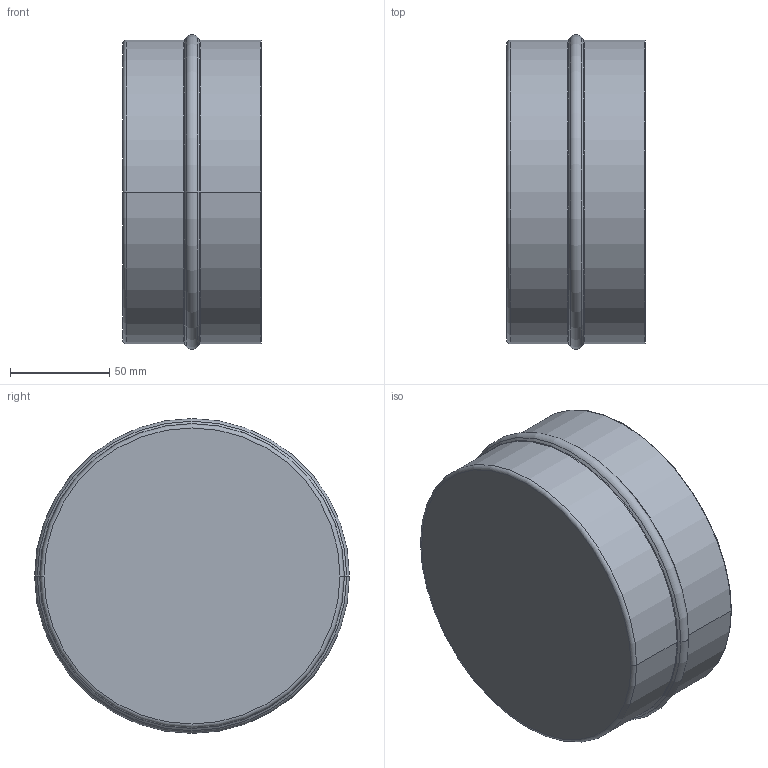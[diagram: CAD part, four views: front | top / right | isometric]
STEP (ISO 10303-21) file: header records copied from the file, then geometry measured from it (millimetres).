
FILE_DESCRIPTION((''),'2;1');
FILE_NAME('2012900600','2017-05-10T',('Administrator'),(''),'PRO/ENGINEER BY PARAMETRIC TECHNOLOGY CORPORATION, 2009360','PRO/ENGINEER BY PARAMETRIC TECHNOLOGY CORPORATION, 2009360','');
FILE_SCHEMA(('AUTOMOTIVE_DESIGN_CC2 { 1 2 10303 214 -1 1 5 2 }'));
Length unit declared in the file: millimetre
Products named in the file (1): 2012900600
Bounding box: 70 x 158.98 x 158.98 mm (x, y, z)
Volume: 495763.6 mm3; surface area: 92955.9 mm2
Topology: 1 solids, 1 shells, 25 faces, 48 edges, 26 vertices
Faces by surface type: torus 12, cylinder 6, cone 4, plane 3
Entity records: 811 total; most frequent: DIRECTION 136, CARTESIAN_POINT 99, ORIENTED_EDGE 96, AXIS2_PLACEMENT_3D 63, PRESENTATION_STYLE_ASSIGNMENT 49, STYLED_ITEM 49, CURVE_STYLE 48, EDGE_CURVE 48
